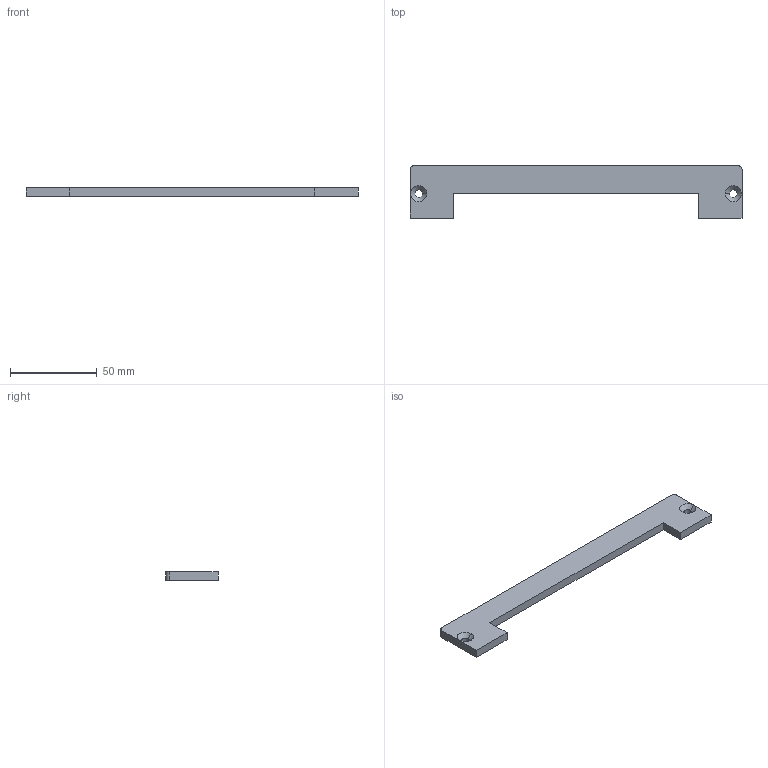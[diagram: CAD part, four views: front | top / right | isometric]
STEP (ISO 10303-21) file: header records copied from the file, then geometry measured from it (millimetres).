
FILE_DESCRIPTION (( 'STEP AP214' ), '1' );
FILE_NAME ('õ2.STEP', '2026-01-21T22:09:06', ( '' ), ( '' ), 'SwSTEP 2.0', 'SolidWorks 2024', '' );
FILE_SCHEMA (( 'AUTOMOTIVE_DESIGN' ));
Length unit declared in the file: millimetre
Products named in the file (1): х2
Bounding box: 191 x 30 x 5 mm (x, y, z)
Volume: 18496.7 mm3; surface area: 9902.8 mm2
Topology: 1 solids, 1 shells, 20 faces, 50 edges, 32 vertices
Faces by surface type: plane 10, cylinder 6, cone 4
Entity records: 629 total; most frequent: DIRECTION 108, CARTESIAN_POINT 103, ORIENTED_EDGE 100, EDGE_CURVE 50, AXIS2_PLACEMENT_3D 37, VECTOR 34, LINE 34, VERTEX_POINT 32
